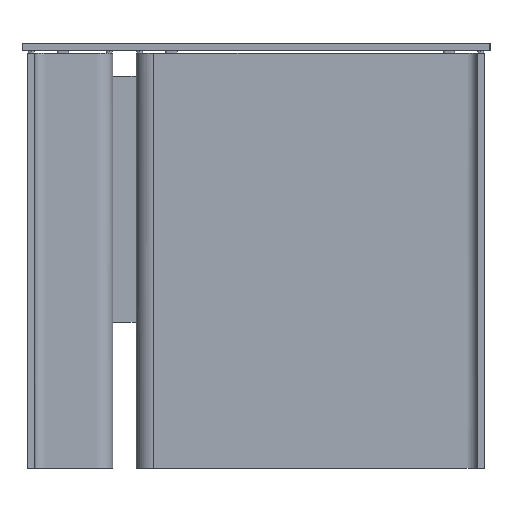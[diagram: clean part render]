
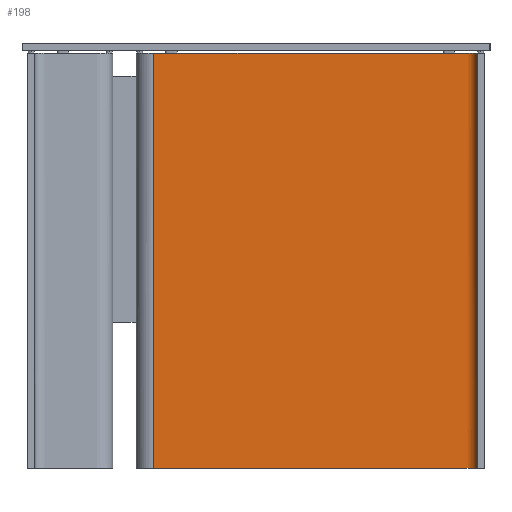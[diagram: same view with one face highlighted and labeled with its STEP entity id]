
A CAD part, left-side view. The second image highlights one B-rep face of the part: STEP entity #198.
In plain terms, the highlighted free-form (B-spline) face has degree [2, 1] with [7, 2] control points.
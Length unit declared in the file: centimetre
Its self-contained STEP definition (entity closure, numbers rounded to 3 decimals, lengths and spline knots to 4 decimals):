
#29=(
BOUNDED_SURFACE()
B_SPLINE_SURFACE(2,1,((#1857,#1858),(#1859,#1860),(#1861,#1862),(#1863,#1864),
(#1865,#1866),(#1867,#1868),(#1869,#1870)),.UNSPECIFIED.,.F.,.F.,.F.)
B_SPLINE_SURFACE_WITH_KNOTS((3,2,2,3),(2,2),(-56.5,-3.,-0.1726,
5.8274),(0.,71.),.UNSPECIFIED.)
GEOMETRIC_REPRESENTATION_ITEM()
RATIONAL_B_SPLINE_SURFACE(((1.,1.),(1.,1.),(1.,1.),(0.707,0.707),
(1.,1.),(1.,1.),(1.,1.)))
REPRESENTATION_ITEM($)
SURFACE()
);
#75=(
BOUNDED_CURVE()
B_SPLINE_CURVE(2,(#1793,#1794,#1795,#1796,#1797,#1798,#1799),.UNSPECIFIED.,
.F.,.F.)
B_SPLINE_CURVE_WITH_KNOTS((3,2,2,3),(-56.5,-3.,-0.1726,5.8274),
.UNSPECIFIED.)
CURVE()
GEOMETRIC_REPRESENTATION_ITEM()
RATIONAL_B_SPLINE_CURVE((1.,1.,1.,0.707,1.,1.,1.))
REPRESENTATION_ITEM($)
);
#79=(
BOUNDED_CURVE()
B_SPLINE_CURVE(2,(#1827,#1828,#1829,#1830,#1831,#1832,#1833),.UNSPECIFIED.,
.F.,.F.)
B_SPLINE_CURVE_WITH_KNOTS((3,2,2,3),(-5.8274,0.1726,
3.,56.5),.UNSPECIFIED.)
CURVE()
GEOMETRIC_REPRESENTATION_ITEM()
RATIONAL_B_SPLINE_CURVE((1.,1.,1.,0.707,1.,1.,1.))
REPRESENTATION_ITEM($)
);
#198=ADVANCED_FACE($,(#290),#29,.T.);
#290=FACE_OUTER_BOUND($,#382,.T.);
#382=EDGE_LOOP($,(#546,#547,#548,#549));
#546=ORIENTED_EDGE($,*,*,#823,.T.);
#547=ORIENTED_EDGE($,*,*,#819,.T.);
#548=ORIENTED_EDGE($,*,*,#813,.F.);
#549=ORIENTED_EDGE($,*,*,#812,.T.);
#812=EDGE_CURVE($,#968,#973,#75,.T.);
#813=EDGE_CURVE($,#968,#969,#1140,.T.);
#819=EDGE_CURVE($,#974,#969,#79,.T.);
#823=EDGE_CURVE($,#973,#974,#1145,.T.);
#968=VERTEX_POINT($,#1905);
#969=VERTEX_POINT($,#1906);
#973=VERTEX_POINT($,#1910);
#974=VERTEX_POINT($,#1911);
#1140=B_SPLINE_CURVE_WITH_KNOTS($,1,(#1800,#1801),.UNSPECIFIED.,.F.,.F.,
(2,2),(0.,71.),.UNSPECIFIED.);
#1145=B_SPLINE_CURVE_WITH_KNOTS($,1,(#1849,#1850),.UNSPECIFIED.,.F.,.F.,
(2,2),(0.,71.),.UNSPECIFIED.);
#1793=CARTESIAN_POINT($,(8.8,57.5,0.));
#1794=CARTESIAN_POINT($,(8.8,30.75,0.));
#1795=CARTESIAN_POINT($,(8.8,4.,0.));
#1796=CARTESIAN_POINT($,(8.8,2.2,0.));
#1797=CARTESIAN_POINT($,(7.,2.2,0.));
#1798=CARTESIAN_POINT($,(4.,2.2,0.));
#1799=CARTESIAN_POINT($,(1.,2.2,0.));
#1800=CARTESIAN_POINT($,(8.8,57.5,0.));
#1801=CARTESIAN_POINT($,(8.8,57.5,71.));
#1827=CARTESIAN_POINT($,(1.,2.2,71.));
#1828=CARTESIAN_POINT($,(4.,2.2,71.));
#1829=CARTESIAN_POINT($,(7.,2.2,71.));
#1830=CARTESIAN_POINT($,(8.8,2.2,71.));
#1831=CARTESIAN_POINT($,(8.8,4.,71.));
#1832=CARTESIAN_POINT($,(8.8,30.75,71.));
#1833=CARTESIAN_POINT($,(8.8,57.5,71.));
#1849=CARTESIAN_POINT($,(1.,2.2,0.));
#1850=CARTESIAN_POINT($,(1.,2.2,71.));
#1857=CARTESIAN_POINT($,(8.8,57.5,0.));
#1858=CARTESIAN_POINT($,(8.8,57.5,71.));
#1859=CARTESIAN_POINT($,(8.8,30.75,0.));
#1860=CARTESIAN_POINT($,(8.8,30.75,71.));
#1861=CARTESIAN_POINT($,(8.8,4.,0.));
#1862=CARTESIAN_POINT($,(8.8,4.,71.));
#1863=CARTESIAN_POINT($,(8.8,2.2,0.));
#1864=CARTESIAN_POINT($,(8.8,2.2,71.));
#1865=CARTESIAN_POINT($,(7.,2.2,0.));
#1866=CARTESIAN_POINT($,(7.,2.2,71.));
#1867=CARTESIAN_POINT($,(4.,2.2,0.));
#1868=CARTESIAN_POINT($,(4.,2.2,71.));
#1869=CARTESIAN_POINT($,(1.,2.2,0.));
#1870=CARTESIAN_POINT($,(1.,2.2,71.));
#1905=CARTESIAN_POINT($,(8.8,57.5,0.));
#1906=CARTESIAN_POINT($,(8.8,57.5,71.));
#1910=CARTESIAN_POINT($,(1.,2.2,0.));
#1911=CARTESIAN_POINT($,(1.,2.2,71.));
